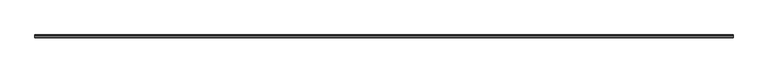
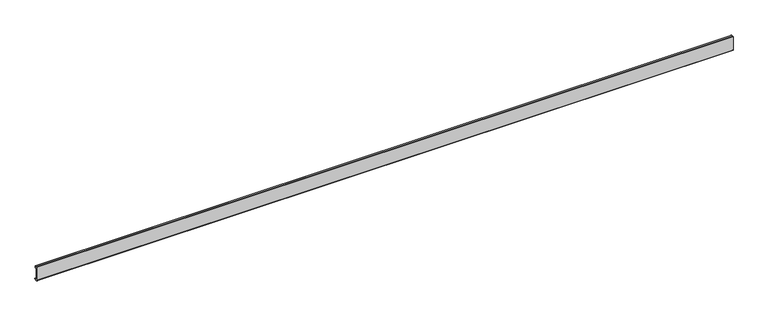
"""IFC4 building model written with IfcOpenShell, lengths in millimetres: proxy geometry, Weiku - Montante - Capa de folha 02.3.02.406 : Weiku - Montante - Capa de folha 02.3.02.406."""

from ifc_helpers import new_model, si_unit, point, frame, frame_2d, origin, place, context, project, spatial, polyline, circle_curve, trimmed, segment, composite_curve, outline, extrude, source, transform, mapped, element, save


def generic_models_2e5c334d(model_context):
    return source(origin(), model_context, "Body", "SweptSolid", [
        extrude(outline(composite_curve([segment(polyline([(4.6421508, 2.2715508), (5.3603515, 1.056104)]), True, "CONTINUOUS"), segment(trimmed(circle_curve(frame_2d((4.7576991, 0.7)), 0.7), [point((5.3603515, 1.056104))], [point((4.7576991, 0.0))], False, "CARTESIAN"), True, "CONTINUOUS"), segment(polyline([(4.7576991, 0.0), (0.5, 0.0)]), True, "CONTINUOUS"), segment(trimmed(circle_curve(frame_2d((0.5, 0.5)), 0.5), [point((0.5, 0.0))], [point((0.0, 0.5))], False, "CARTESIAN"), True, "CONTINUOUS"), segment(polyline([(0.0, 0.5), (0.0, 26.2)]), True, "CONTINUOUS"), segment(trimmed(circle_curve(frame_2d((0.5, 26.2)), 0.5), [point((0.0, 26.2))], [point((0.5, 26.7))], False, "CARTESIAN"), True, "CONTINUOUS"), segment(polyline([(0.5, 26.7), (3.78, 26.7)]), True, "CONTINUOUS"), segment(trimmed(circle_curve(frame_2d((3.78, 26.2)), 0.5), [point((3.78, 26.7))], [point((4.28, 26.2))], False, "CARTESIAN"), True, "CONTINUOUS"), segment(polyline([(4.28, 26.2), (4.28, 22.3396), (3.3063, 22.3396), (3.3063, 25.684), (1.6933, 25.684), (1.6933, 1.016), (3.3866, 1.016), (4.6421508, 2.2715508)]), True, "CONTINUOUS")], self_intersect=False)), frame((-631.925, 0.0, 0.0), z_axis=(1.0, 0.0, 0.0), x_axis=(0.0, 1.0, 0.0)), (0.0, 0.0, 1.0), 1263.85),
    ])


if __name__ == "__main__":
    model = new_model("IFC4")
    model_context = context("Model", 3, world=origin())
    ifc_project = project(units=[si_unit("LENGTHUNIT", "METRE", prefix="MILLI")], contexts=[model_context])
    site = spatial("IfcSite", under=ifc_project)
    building = spatial("IfcBuilding", under=site)
    placement = place(None, origin())
    generic_models_shape = generic_models_2e5c334d(model_context)
    element("IfcBuildingElementProxy", 1, Name="Weiku - Montante - Capa de folha 02.3.02.406 : Weiku - Montante - Capa de folha 02.3.02.406", ObjectType="Weiku - Montante - Capa de folha 02.3.02.406 : Weiku - Montante - Capa de folha 02.3.02.406", at=placement, inside=building, context=model_context, shape_type="MappedRepresentation", body=[
        mapped(generic_models_shape, transform((0.0, 0.0, 0.0), x_axis=(1.0, 0.0, 0.0), y_axis=(0.0, 1.0, 0.0), z_axis=(0.0, 0.0, 1.0))),
    ])
    save(model, "model.ifc")
